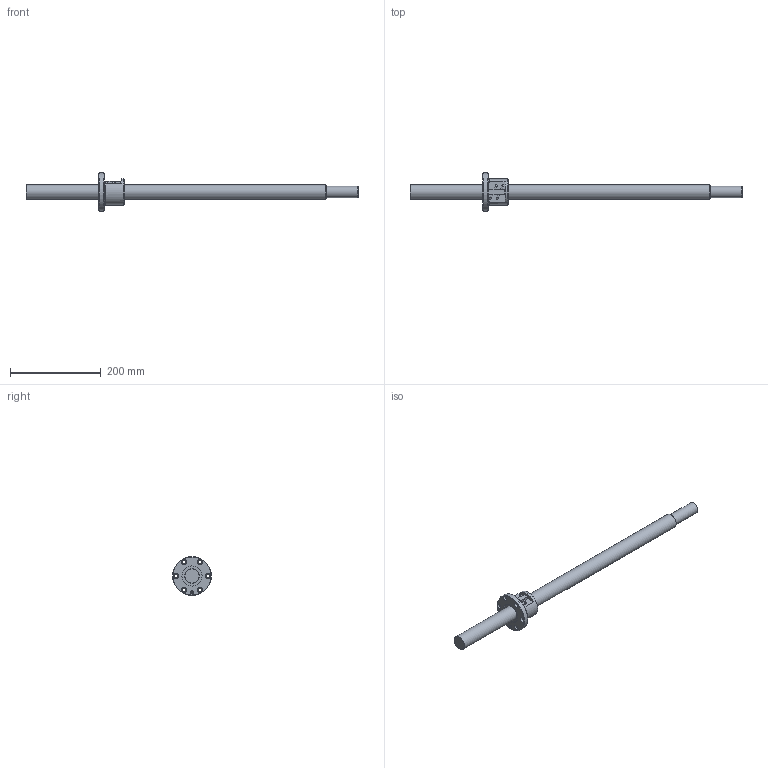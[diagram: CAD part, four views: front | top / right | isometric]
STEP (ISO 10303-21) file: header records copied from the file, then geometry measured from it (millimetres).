
FILE_DESCRIPTION(/* description */ ('STEP AP203'),/* implementation_level */ '2;1');
FILE_NAME(/* name */ 'BNF3205-5RRG1+730LC5A(00)',/* time_stamp */ '2024-07-15T07:47:49+02:00',/* author */ ('License CC BY-ND 4.0'),/* organization */ ('CADENAS'),/* preprocessor_version */ 'ST-DEVELOPER v19.3',/* originating_system */ 'PARTsolutions',/* authorisation */ ' ');
FILE_SCHEMA (('CONFIG_CONTROL_DESIGN'));
Length unit declared in the file: millimetre
Products named in the file (3): BNF3205-5RRG1+730LC5A(00); BNF3205-5RRG1+730LC5A(00)_shaft; BNF 3205-5RR_nut
Assembly tree (2 placements, depth 2):
  BNF3205-5RRG1+730LC5A(00)
    BNF3205-5RRG1+730LC5A(00)_shaft
    BNF 3205-5RR_nut
Bounding box: 730 x 85 x 85 mm (x, y, z)
Volume: 684035.6 mm3; surface area: 103527.8 mm2
Topology: 2 solids, 2 shells, 69 faces, 159 edges, 104 vertices
Faces by surface type: cylinder 32, plane 24, cone 9, torus 4
Full cylindrical faces by diameter (mm): 3 x2, 3.865 x4, 4.917 x1, 6.6 x6, 11 x6, 25.3 x1, 32 x2, 44 x2, 58 x1, 85 x1
Entity records: 1811 total; most frequent: DIRECTION 316, CARTESIAN_POINT 314, ORIENTED_EDGE 212, AXIS2_PLACEMENT_3D 146, EDGE_LOOP 142, FACE_BOUND 142, EDGE_CURVE 106, VERTEX_POINT 90
